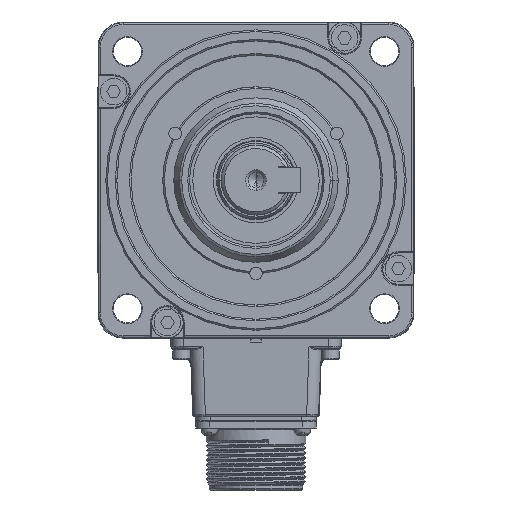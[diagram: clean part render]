
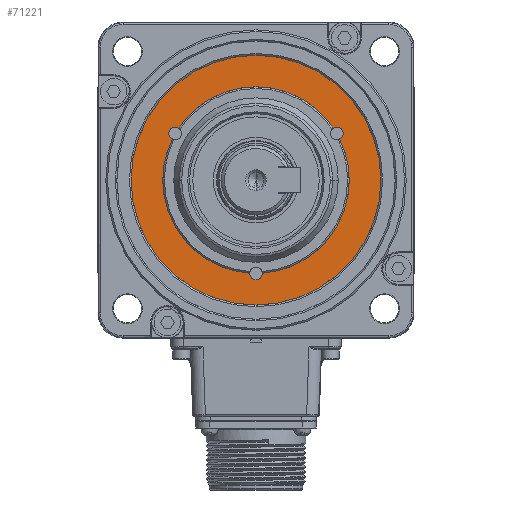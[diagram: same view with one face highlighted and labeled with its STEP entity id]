
A CAD part, front view. The second image highlights one B-rep face of the part: STEP entity #71221.
In plain terms, the highlighted planar face has unit normal (0, -1, 0).
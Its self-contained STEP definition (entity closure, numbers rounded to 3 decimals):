
#19306=CARTESIAN_POINT('',(0.,-75.9,0.));
#19307=DIRECTION('',(0.,1.,0.));
#19308=DIRECTION('',(1.,0.,0.));
#19309=AXIS2_PLACEMENT_3D('',#19306,#19307,#19308);
#19311=CARTESIAN_POINT('',(0.,-75.9,0.));
#19312=DIRECTION('',(0.,1.,0.));
#19313=DIRECTION('',(-1.,0.,0.));
#19314=AXIS2_PLACEMENT_3D('',#19311,#19312,#19313);
#19316=CARTESIAN_POINT('',(0.,-75.9,-29.5));
#19317=DIRECTION('',(0.,-1.,0.));
#19318=DIRECTION('',(-1.,0.,0.));
#19319=AXIS2_PLACEMENT_3D('',#19316,#19317,#19318);
#19321=CARTESIAN_POINT('',(0.,-75.9,-29.5));
#19322=DIRECTION('',(0.,-1.,0.));
#19323=DIRECTION('',(1.,0.,0.));
#19324=AXIS2_PLACEMENT_3D('',#19321,#19322,#19323);
#19326=CARTESIAN_POINT('',(0.,-75.9,0.));
#19327=DIRECTION('',(0.,-1.,0.));
#19328=DIRECTION('',(0.068,0.,-0.998));
#19329=AXIS2_PLACEMENT_3D('',#19326,#19327,#19328);
#19331=CARTESIAN_POINT('',(0.,-75.9,0.));
#19332=DIRECTION('',(0.,-1.,0.));
#19333=DIRECTION('',(1.,0.,0.));
#19334=AXIS2_PLACEMENT_3D('',#19331,#19332,#19333);
#19336=CARTESIAN_POINT('',(25.548,-75.9,14.75));
#19337=DIRECTION('',(0.,-1.,0.));
#19338=DIRECTION('',(0.47,0.,-0.882));
#19339=AXIS2_PLACEMENT_3D('',#19336,#19337,#19338);
#19341=CARTESIAN_POINT('',(25.548,-75.9,14.75));
#19342=DIRECTION('',(0.,-1.,0.));
#19343=DIRECTION('',(1.,0.,0.));
#19344=AXIS2_PLACEMENT_3D('',#19341,#19342,#19343);
#19346=CARTESIAN_POINT('',(0.,-75.9,0.));
#19347=DIRECTION('',(0.,-1.,0.));
#19348=DIRECTION('',(0.83,0.,0.558));
#19349=AXIS2_PLACEMENT_3D('',#19346,#19347,#19348);
#19351=CARTESIAN_POINT('',(-25.548,-75.9,14.75));
#19352=DIRECTION('',(0.,-1.,0.));
#19353=DIRECTION('',(0.529,0.,0.849));
#19354=AXIS2_PLACEMENT_3D('',#19351,#19352,#19353);
#19356=CARTESIAN_POINT('',(-25.548,-75.9,14.75));
#19357=DIRECTION('',(0.,-1.,0.));
#19358=DIRECTION('',(-1.,0.,0.));
#19359=AXIS2_PLACEMENT_3D('',#19356,#19357,#19358);
#19361=CARTESIAN_POINT('',(0.,-75.9,0.));
#19362=DIRECTION('',(0.,-1.,0.));
#19363=DIRECTION('',(-0.898,0.,0.44));
#19364=AXIS2_PLACEMENT_3D('',#19361,#19362,#19363);
#19366=CARTESIAN_POINT('',(0.,-75.9,0.));
#19367=DIRECTION('',(0.,-1.,0.));
#19368=DIRECTION('',(-1.,0.,0.));
#19369=AXIS2_PLACEMENT_3D('',#19366,#19367,#19368);
#19371=CARTESIAN_POINT('',(0.,-75.9,-29.5));
#19372=DIRECTION('',(0.,-1.,0.));
#19373=DIRECTION('',(-0.999,0.,0.034));
#19374=AXIS2_PLACEMENT_3D('',#19371,#19372,#19373);
#31068=CARTESIAN_POINT('',(2.,-75.9,-29.5));
#31069=CARTESIAN_POINT('',(1.999,-75.9,-29.432));
#31070=VERTEX_POINT('',#31068);
#31071=VERTEX_POINT('',#31069);
#31076=CARTESIAN_POINT('',(-2.,-75.9,-29.5));
#31077=VERTEX_POINT('',#31076);
#31078=CARTESIAN_POINT('',(-1.999,-75.9,-29.432));
#31079=VERTEX_POINT('',#31078);
#31082=CARTESIAN_POINT('',(39.5,-75.9,0.));
#31083=CARTESIAN_POINT('',(-39.5,-75.9,0.));
#31084=VERTEX_POINT('',#31082);
#31085=VERTEX_POINT('',#31083);
#31086=CARTESIAN_POINT('',(29.5,-75.9,0.));
#31087=VERTEX_POINT('',#31086);
#31088=CARTESIAN_POINT('',(26.488,-75.9,12.985));
#31089=VERTEX_POINT('',#31088);
#31090=CARTESIAN_POINT('',(27.548,-75.9,14.75));
#31091=VERTEX_POINT('',#31090);
#31092=CARTESIAN_POINT('',(24.49,-75.9,16.447));
#31093=VERTEX_POINT('',#31092);
#31094=CARTESIAN_POINT('',(-24.49,-75.9,16.447));
#31095=VERTEX_POINT('',#31094);
#31096=CARTESIAN_POINT('',(-27.548,-75.9,14.75));
#31097=VERTEX_POINT('',#31096);
#31098=CARTESIAN_POINT('',(-26.488,-75.9,12.985));
#31099=VERTEX_POINT('',#31098);
#31100=CARTESIAN_POINT('',(-29.5,-75.9,0.));
#31101=VERTEX_POINT('',#31100);
#71186=CARTESIAN_POINT('',(0.,-75.9,0.));
#71187=DIRECTION('',(0.,1.,0.));
#71188=DIRECTION('',(1.,0.,0.));
#71189=AXIS2_PLACEMENT_3D('',#71186,#71187,#71188);
#71190=PLANE('',#71189);
#71191=ORIENTED_EDGE('',*,*,#71171,.T.);
#71192=ORIENTED_EDGE('',*,*,#71153,.T.);
#71193=EDGE_LOOP('',(#71191,#71192));
#71194=FACE_OUTER_BOUND('',#71193,.F.);
#71196=ORIENTED_EDGE('',*,*,#71195,.T.);
#71198=ORIENTED_EDGE('',*,*,#71197,.T.);
#71200=ORIENTED_EDGE('',*,*,#71199,.T.);
#71202=ORIENTED_EDGE('',*,*,#71201,.T.);
#71204=ORIENTED_EDGE('',*,*,#71203,.T.);
#71206=ORIENTED_EDGE('',*,*,#71205,.T.);
#71208=ORIENTED_EDGE('',*,*,#71207,.T.);
#71210=ORIENTED_EDGE('',*,*,#71209,.T.);
#71212=ORIENTED_EDGE('',*,*,#71211,.T.);
#71214=ORIENTED_EDGE('',*,*,#71213,.T.);
#71216=ORIENTED_EDGE('',*,*,#71215,.T.);
#71218=ORIENTED_EDGE('',*,*,#71217,.T.);
#71219=EDGE_LOOP('',(#71196,#71198,#71200,#71202,#71204,#71206,#71208,#71210,
#71212,#71214,#71216,#71218));
#71220=FACE_BOUND('',#71219,.F.);
#71221=ADVANCED_FACE('',(#71194,#71220),#71190,.F.);
#19310=CIRCLE('',#19309,39.5);
#19315=CIRCLE('',#19314,39.5);
#19320=CIRCLE('',#19319,2.);
#19325=CIRCLE('',#19324,2.);
#19330=CIRCLE('',#19329,29.5);
#19335=CIRCLE('',#19334,29.5);
#19340=CIRCLE('',#19339,2.);
#19345=CIRCLE('',#19344,2.);
#19350=CIRCLE('',#19349,29.5);
#19355=CIRCLE('',#19354,2.);
#19360=CIRCLE('',#19359,2.);
#19365=CIRCLE('',#19364,29.5);
#19370=CIRCLE('',#19369,29.5);
#19375=CIRCLE('',#19374,2.);
#71153=EDGE_CURVE('',#31085,#31084,#19315,.T.);
#71171=EDGE_CURVE('',#31084,#31085,#19310,.T.);
#71195=EDGE_CURVE('',#31077,#31070,#19320,.T.);
#71197=EDGE_CURVE('',#31070,#31071,#19325,.T.);
#71199=EDGE_CURVE('',#31071,#31087,#19330,.T.);
#71201=EDGE_CURVE('',#31087,#31089,#19335,.T.);
#71203=EDGE_CURVE('',#31089,#31091,#19340,.T.);
#71205=EDGE_CURVE('',#31091,#31093,#19345,.T.);
#71207=EDGE_CURVE('',#31093,#31095,#19350,.T.);
#71209=EDGE_CURVE('',#31095,#31097,#19355,.T.);
#71211=EDGE_CURVE('',#31097,#31099,#19360,.T.);
#71213=EDGE_CURVE('',#31099,#31101,#19365,.T.);
#71215=EDGE_CURVE('',#31101,#31079,#19370,.T.);
#71217=EDGE_CURVE('',#31079,#31077,#19375,.T.);
